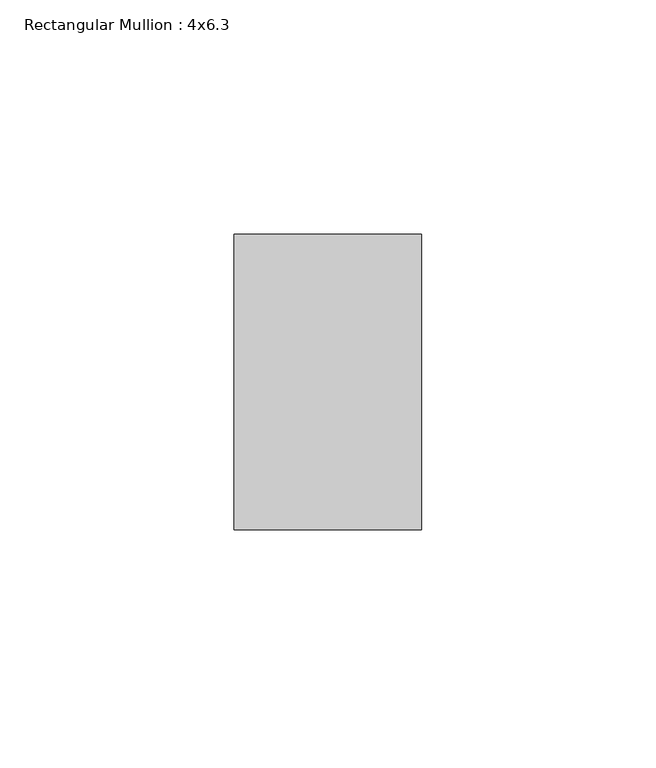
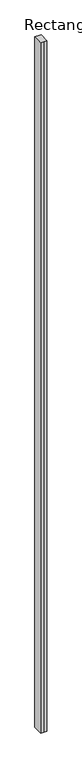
"""IFC4 building model written with IfcOpenShell, lengths in millimetres: member geometry, Rectangular Mullion : 4x6.3."""

import ifcopenshell
import ifcopenshell.guid

model = None  # the IFC model being written
_history = None  # IfcOwnerHistory: only IFC2X3 demands one
_inside = {}  # id of a spatial element -> (the spatial element, [elements in it])
_under = {}  # id of a project, library or spatial element -> (it, [spatial elements below it])
_declared = {}  # id of a project -> (the project, [libraries it declares])
_typed = {}  # id of a type object -> (the type object, [elements of that type])
_made_of = {}  # id of a material, layer set ... -> (it, [elements and type objects made of it])


def new_model(schema):
    """Start an empty IFC model of exactly this schema.

    Asked for "IFC4X3", IfcOpenShell would pick the latest addendum, in which some entities
    have other attributes; the version numbers below select the first issue.
    IFC2X3 requires an IfcOwnerHistory on every rooted entity: one is made here for all.
    """
    global model, _history
    if schema == "IFC4X3":
        model = ifcopenshell.file(schema_version=(4, 3, 0, 0))
    else:
        model = ifcopenshell.file(schema=schema)
    _inside.clear()
    _under.clear()
    _declared.clear()
    _typed.clear()
    _made_of.clear()
    _history = None
    if model.schema == "IFC2X3":
        org = make("IfcOrganization", Name="unknown")
        user = make(
            "IfcPersonAndOrganization",
            ThePerson=make("IfcPerson", FamilyName="unknown"),
            TheOrganization=org,
        )
        app = make(
            "IfcApplication",
            ApplicationDeveloper=org,
            Version="unknown",
            ApplicationFullName="unknown",
            ApplicationIdentifier="unknown",
        )
        _history = make(
            "IfcOwnerHistory",
            OwningUser=user,
            OwningApplication=app,
            ChangeAction="ADDED",
            CreationDate=0,
        )
    return model


def make(cls, **values):
    """One entity of the class cls with the attributes given. An attribute that is None is left unset."""
    return model.create_entity(
        cls, **{name: value for name, value in values.items() if value is not None}
    )


def rooted(cls, **values):
    """An entity with a GlobalId (a new one), such as an element, a storey or a relation."""
    return make(cls, GlobalId=ifcopenshell.guid.new(), OwnerHistory=_history, **values)


def si_unit(unit_type, name, prefix=None):
    """IfcSIUnit, for example si_unit("LENGTHUNIT", "METRE", prefix="MILLI")."""
    return make("IfcSIUnit", UnitType=unit_type, Prefix=prefix, Name=name)


def assignment(units):
    """IfcUnitAssignment: the units of a project."""
    return None if units is None else make("IfcUnitAssignment", Units=units)


def point(xyz):
    """IfcCartesianPoint."""
    return None if xyz is None else make("IfcCartesianPoint", Coordinates=xyz)


def direction(xyz):
    """IfcDirection."""
    return None if xyz is None else make("IfcDirection", DirectionRatios=xyz)


def frame(location, z_axis=None, x_axis=None):
    """IfcAxis2Placement3D, a coordinate frame: its origin and axes. An axis left out is left unset."""
    return make(
        "IfcAxis2Placement3D",
        Location=point(location),
        Axis=direction(z_axis),
        RefDirection=direction(x_axis),
    )


def origin():
    """The frame at (0, 0, 0) with its axes left unset."""
    return frame((0.0, 0.0, 0.0))


def place(relative_to, where):
    """IfcLocalPlacement: puts the frame where relative to a parent placement (None: the world)."""
    return make(
        "IfcLocalPlacement", PlacementRelTo=relative_to, RelativePlacement=where
    )


def context(
    kind, dimensions, precision=None, world=None, true_north=None, identifier=None
):
    """IfcGeometricRepresentationContext, for example the 3D "Model" context."""
    return make(
        "IfcGeometricRepresentationContext",
        ContextIdentifier=identifier,
        ContextType=kind,
        CoordinateSpaceDimension=dimensions,
        Precision=precision,
        WorldCoordinateSystem=world,
        TrueNorth=true_north,
    )


def project(units=None, contexts=None):
    """IfcProject with its units and contexts."""
    return rooted(
        "IfcProject",
        Name="project",
        RepresentationContexts=contexts,
        UnitsInContext=assignment(units),
    )


def spatial(cls, under=None, at=None, **own):
    """A site, building, storey or space (cls), placed at a placement, below another one or the project."""
    s = rooted(cls, ObjectPlacement=at, **own)
    if under is not None:
        _under.setdefault(under.id(), (under, []))[1].append(s)
    return s


def polyline(points):
    """IfcPolyline through the points."""
    return make("IfcPolyline", Points=[point(p) for p in points])


def outline(outer, holes=None, kind="AREA"):
    """IfcArbitraryClosedProfileDef: a profile drawn as a closed curve; with holes, ...WithVoids."""
    if holes is None:
        return make("IfcArbitraryClosedProfileDef", ProfileType=kind, OuterCurve=outer)
    return make(
        "IfcArbitraryProfileDefWithVoids",
        ProfileType=kind,
        OuterCurve=outer,
        InnerCurves=holes,
    )


def extrude(swept, where, along, depth):
    """IfcExtrudedAreaSolid: the profile swept, set in the frame where, extruded along a direction by depth."""
    return make(
        "IfcExtrudedAreaSolid",
        SweptArea=swept,
        Position=where,
        ExtrudedDirection=direction(along),
        Depth=depth,
    )


def shape(context_of_items, identifier, shape_type, items):
    """IfcShapeRepresentation: the items that make up one representation, for example the "Body"."""
    return make(
        "IfcShapeRepresentation",
        ContextOfItems=context_of_items,
        RepresentationIdentifier=identifier,
        RepresentationType=shape_type,
        Items=items,
    )


def source(mapping_origin, context_of_items, identifier, shape_type, items):
    """IfcRepresentationMap: a shape defined once, which mapped items show again and again."""
    return make(
        "IfcRepresentationMap",
        MappingOrigin=mapping_origin,
        MappedRepresentation=shape(context_of_items, identifier, shape_type, items),
    )


def transform(
    local_origin,
    x_axis=None,
    y_axis=None,
    z_axis=None,
    scale=None,
    scale2=None,
    scale3=None,
    uniform=True,
):
    """IfcCartesianTransformationOperator3D, or its non-uniform kind. x_axis, y_axis, z_axis: its Axis1, 2, 3."""
    if uniform:
        return make(
            "IfcCartesianTransformationOperator3D",
            Axis1=direction(x_axis),
            Axis2=direction(y_axis),
            LocalOrigin=point(local_origin),
            Scale=scale,
            Axis3=direction(z_axis),
        )
    return make(
        "IfcCartesianTransformationOperator3DnonUniform",
        Axis1=direction(x_axis),
        Axis2=direction(y_axis),
        LocalOrigin=point(local_origin),
        Scale=scale,
        Axis3=direction(z_axis),
        Scale2=scale2,
        Scale3=scale3,
    )


def mapped(mapping_source, mapping_target):
    """IfcMappedItem: shows the shape of a source again, moved by a transform."""
    return make(
        "IfcMappedItem", MappingSource=mapping_source, MappingTarget=mapping_target
    )


def made_of(thing, what):
    """Note that an element or type object is made of a material, layer set ...; save() writes the relation."""
    if what is not None:
        _made_of.setdefault(what.id(), (what, []))[1].append(thing)
    return thing


def element(
    cls,
    number,
    at=None,
    inside=None,
    cuts=None,
    type_object=None,
    material=None,
    context=None,
    identifier="Body",
    shape_type=None,
    held_by="IfcProductDefinitionShape",
    body=None,
    shapes=None,
    **own,
):
    """One element of the class cls, such as IfcWall. Its Tag is "e" and its number.

    at: its placement. inside: the storey or other place that contains it. cuts: it is an
    opening in that element (IfcRelVoidsElement). A single representation is given by context,
    identifier, shape_type and body (its items); several are given by shapes. held_by: the class
    of the entity that holds the representations. save() writes the other relations.
    """
    e = rooted(cls, Tag="e%d" % number, ObjectPlacement=at, **own)
    if body is not None:
        shapes = [shape(context, identifier, shape_type, body)]
    if shapes is not None:
        e.Representation = make(held_by, Representations=shapes)
    if inside is not None:
        _inside.setdefault(inside.id(), (inside, []))[1].append(e)
    if cuts is not None:
        rooted(
            "IfcRelVoidsElement", RelatingBuildingElement=cuts, RelatedOpeningElement=e
        )
    if type_object is not None:
        _typed.setdefault(type_object.id(), (type_object, []))[1].append(e)
    return made_of(e, material)


def aggregate(whole, parts):
    """IfcRelAggregates: a whole, such as a stair, and the parts it consists of."""
    return rooted("IfcRelAggregates", RelatingObject=whole, RelatedObjects=parts)


def save(model, path):
    """Write the relations noted so far, then the file.

    IfcRelAggregates (storeys below a building ...), IfcRelContainedInSpatialStructure (elements
    in a storey), IfcRelDefinesByType, IfcRelAssociatesMaterial and IfcRelDeclares: one each for
    every whole, place, type object, material and project.
    """
    for whole, parts in _under.values():
        aggregate(whole, parts)
    for where, things in _inside.values():
        rooted(
            "IfcRelContainedInSpatialStructure",
            RelatedElements=things,
            RelatingStructure=where,
        )
    for kind, things in _typed.values():
        rooted("IfcRelDefinesByType", RelatedObjects=things, RelatingType=kind)
    for what, things in _made_of.values():
        rooted("IfcRelAssociatesMaterial", RelatedObjects=things, RelatingMaterial=what)
    for by, libraries in _declared.values():
        rooted("IfcRelDeclares", RelatingContext=by, RelatedDefinitions=libraries)
    model.write(path)


def rectangular_mullion_4x6_3_2f0b48cb(model_context):
    return source(origin(), model_context, "Body", "SweptSolid", [
        extrude(outline(polyline([(-20.0, 20.0), (-20.0, 83.0), (20.0, 83.0), (20.0, 20.0), (0.0, 20.0), (-20.0, 20.0)])), frame((0.0, 0.0, -4662.6449305), z_axis=(0.0, 0.0, 1.0), x_axis=(1.0, 0.0, 0.0)), (0.0, 0.0, 1.0), 4662.6449305),
    ])


if __name__ == "__main__":
    model = new_model("IFC4")
    model_context = context("Model", 3, world=origin())
    ifc_project = project(units=[si_unit("LENGTHUNIT", "METRE", prefix="MILLI")], contexts=[model_context])
    site = spatial("IfcSite", under=ifc_project)
    building = spatial("IfcBuilding", under=site)
    placement = place(None, origin())
    rectangular_mullion_4x6_3_shape = rectangular_mullion_4x6_3_2f0b48cb(model_context)
    element("IfcMember", 1, ObjectType="Rectangular Mullion : 4x6.3", at=placement, inside=building, context=model_context, shape_type="MappedRepresentation", body=[
        mapped(rectangular_mullion_4x6_3_shape, transform((0.0, 0.0, 0.0), x_axis=(1.0, 0.0, 0.0), y_axis=(0.0, 1.0, 0.0), z_axis=(0.0, 0.0, 1.0))),
    ])
    save(model, "model.ifc")
